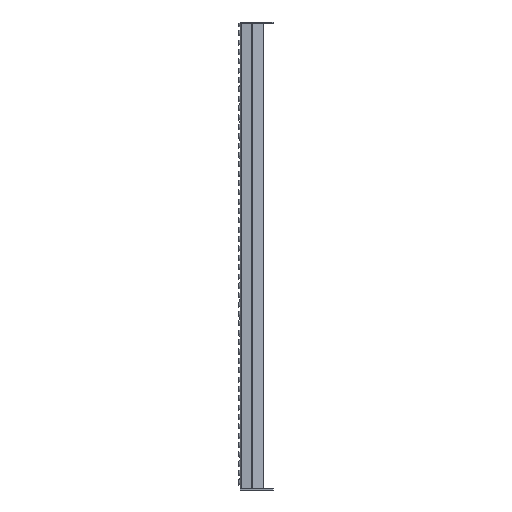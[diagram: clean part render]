
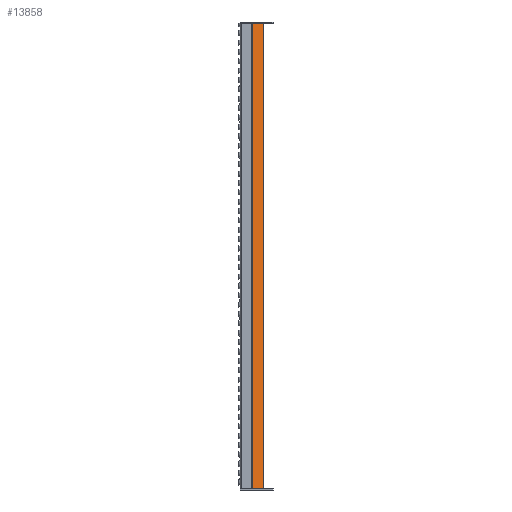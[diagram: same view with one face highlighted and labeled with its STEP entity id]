
A CAD part, left-side view. The second image highlights one B-rep face of the part: STEP entity #13858.
In plain terms, the highlighted planar face has unit normal (-0.94, -0.342, 0).
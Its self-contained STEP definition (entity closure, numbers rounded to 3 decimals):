
#2333=FACE_OUTER_BOUND('',#3472,.T.);
#3472=EDGE_LOOP('',(#12233,#12234,#12235,#12236));
#4543=LINE('',#27886,#5703);
#4562=LINE('',#27933,#5722);
#4564=LINE('',#27939,#5724);
#4568=LINE('',#27946,#5728);
#5703=VECTOR('',#18969,10.);
#5722=VECTOR('',#19012,10.);
#5724=VECTOR('',#19018,10.);
#5728=VECTOR('',#19026,10.);
#6997=VERTEX_POINT('',#27883);
#6998=VERTEX_POINT('',#27885);
#7014=VERTEX_POINT('',#27932);
#7016=VERTEX_POINT('',#27938);
#8754=EDGE_CURVE('',#6998,#6997,#4543,.T.);
#8778=EDGE_CURVE('',#6997,#7014,#4562,.T.);
#8781=EDGE_CURVE('',#7016,#6998,#4564,.T.);
#8785=EDGE_CURVE('',#7014,#7016,#4568,.T.);
#12233=ORIENTED_EDGE('',*,*,#8778,.T.);
#12234=ORIENTED_EDGE('',*,*,#8785,.T.);
#12235=ORIENTED_EDGE('',*,*,#8781,.T.);
#12236=ORIENTED_EDGE('',*,*,#8754,.T.);
#12977=PLANE('',#15357);
#13858=ADVANCED_FACE('',(#2333),#12977,.T.);
#15357=AXIS2_PLACEMENT_3D('',#27945,#19024,#19025);
#18969=DIRECTION('',(-0.342,0.94,0.));
#19012=DIRECTION('',(0.,0.,-1.));
#19018=DIRECTION('',(0.,0.,1.));
#19024=DIRECTION('center_axis',(-0.94,-0.342,0.));
#19025=DIRECTION('ref_axis',(0.,0.,1.));
#19026=DIRECTION('',(0.342,-0.94,0.));
#27883=CARTESIAN_POINT('',(0.196,-25.539,994.));
#27885=CARTESIAN_POINT('',(9.099,-50.,994.));
#27886=CARTESIAN_POINT('',(0.,-25.,994.));
#27932=CARTESIAN_POINT('',(0.196,-25.539,0.));
#27933=CARTESIAN_POINT('',(0.196,-25.539,0.));
#27938=CARTESIAN_POINT('',(9.099,-50.,0.));
#27939=CARTESIAN_POINT('',(9.099,-50.,0.));
#27945=CARTESIAN_POINT('Origin',(9.099,-50.,0.));
#27946=CARTESIAN_POINT('',(0.,-25.,0.));
